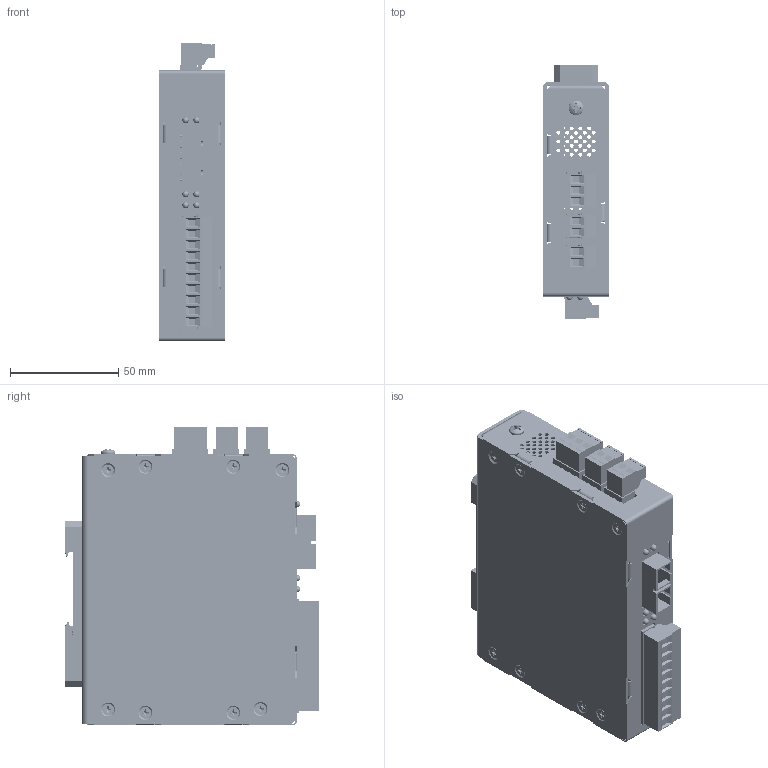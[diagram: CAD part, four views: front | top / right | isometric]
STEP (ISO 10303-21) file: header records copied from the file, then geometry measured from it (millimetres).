
FILE_DESCRIPTION(/* description */ ('STEP AP242','CAx-IF Rec.Pracs.---Representation and Presentation of Product Manufacturing Information (PMI)---4.0---2014-10-13','CAx-IF Rec.Pracs.---3D Tessellated Geometry---0.4---2014-09-14','2;1'),/* implementation_level */ '2;1');
FILE_NAME(/* name */ '618c0d0b562a790ed9cc5c5c',/* time_stamp */ '2021-11-10T18:18:55+00:00',/* author */ (''),/* organization */ (''),/* preprocessor_version */ 'ST-DEVELOPER v18.1',/* originating_system */ ' ',/* authorisation */ ' ');
FILE_SCHEMA (('AP242_MANAGED_MODEL_BASED_3D_ENGINEERING_MIM_LF { 1 0 10303 442 1 1 4 }'));
Products named in the file (27): ADH-XXXXX-XX-1-DIN; 96640A334_Black-Oxide 18-8 Stainless Steel Phillips Flat Head Screws; SMTSO-440-8ET-PennEngineering-3D-09-30-2021; 96640A115_Black-Oxide 18-8 Stainless Steel Phillips Flat Head Screws; 91772A144_Passivated 18-8 Stainless Steel Pan Head Phillips Screw; DINM12-RC-Assy <1>; spring^DINM12-RC-Assy; Spring clip; DINM12-RC; H-138 - 4 CH Analog Signal Industrial Media Converter - Front Cover <
1>; PRODUCT_NAME_1; Part 1; PCB-ADH-420TX-XX-1 <1>; C-796638-2; C-796634-2; C-796634-3; C-1-796638-0; C-796638-3; H-105 Rear Housing <1>; 95185A130_Zinc-Plated Steel Press-Fit Nut for Sheet Metal
Assembly tree (65 placements, depth 3):
  ADH-XXXXX-XX-1-DIN
    96640A334_Black-Oxide 18-8 Stainless Steel Phillips Flat Head Screws  x14
    SMTSO-440-8ET-PennEngineering-3D-09-30-2021  x4
    96640A115_Black-Oxide 18-8 Stainless Steel Phillips Flat Head Screws  x3
    91772A144_Passivated 18-8 Stainless Steel Pan Head Phillips Screw
    DINM12-RC-Assy <1>
      spring^DINM12-RC-Assy
      Spring clip
      DINM12-RC
      spring^DINM12-RC-Assy
    H-138 - 4 CH Analog Signal Industrial Media Converter - Front Cover <
1>
      PRODUCT_NAME_1  x10
      PRODUCT_NAME_1
      Part 1
    PCB-ADH-420TX-XX-1 <1>
      C-796638-2  x2
      C-796634-2  x6
      Part 1  x4
      C-796634-3
      Part 1  x3
      Part 1
      C-1-796638-0
      Part 1
    H-105 Rear Housing <1>
      Part 1
      95185A130_Zinc-Plated Steel Press-Fit Nut for Sheet Metal  x3
  C-796638-3
Bounding box: 30.48 x 117.7 x 137.99 mm (x, y, z)
Volume: 99688.4 mm3; surface area: 133216.3 mm2
Topology: 62 solids, 63 shells, 4705 faces, 13435 edges, 9161 vertices
Faces by surface type: plane 3233, cylinder 1152, cone 226, bspline 50, torus 33, sphere 11
Full cylindrical faces by diameter (mm): 0.45 x9, 0.5 x3, 0.9 x6, 1.3 x4, 1.905 x143, 2.156 x14, 2.647 x1, 2.845 x112, 2.9 x6, 3.251 x14, 3.505 x24, 3.556 x6, 4 x20, 4.089 x4, 4.191 x10, 4.216 x14, 4.724 x1, 4.75 x1, 4.763 x3, 4.826 x3, 4.889 x10, 5.41 x8, 5.563 x13, 5.588 x10, 6.401 x1, 6.858 x1, 7.112 x3, 7.5 x1, 7.62 x8, 9 x2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
Entity records: 77304 total; most frequent: CARTESIAN_POINT 20232, ORIENTED_EDGE 10962, DIRECTION 10828, EDGE_CURVE 5483, VERTEX_POINT 3808, LINE 3784, VECTOR 3784, AXIS2_PLACEMENT_3D 3522
